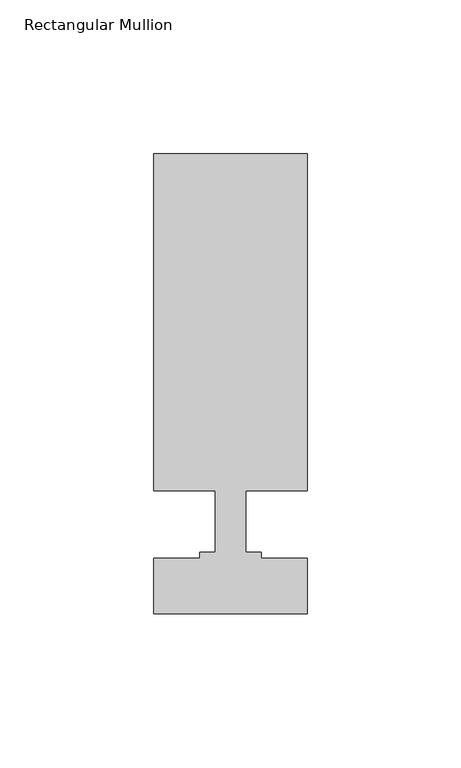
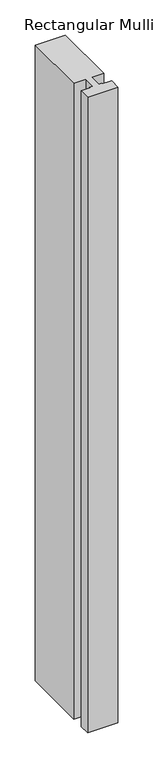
"""IFC4 building model written with IfcOpenShell, lengths in millimetres: member geometry, Rectangular Mullion : TR_CW_¸ALU_internal."""

from ifc_helpers import new_model, si_unit, frame, origin, place, context, project, spatial, polyline, outline, extrude, source, transform, mapped, element, save


def rectangular_mullion_52986066(model_context):
    return source(origin(), model_context, "Body", "SweptSolid", [
        extrude(outline(polyline([(25.0, 0.0), (-25.0, 0.0), (-25.0, 18.0204111), (-10.0, 18.0204111), (-10.0, 20.0), (-5.0, 20.0), (-5.0, 40.0), (-25.0, 40.0), (-25.0, 149.8096073), (25.0, 149.8096073), (25.0, 40.0), (5.0, 40.0), (5.0, 20.0), (10.0, 20.0), (10.0, 18.0204111), (25.0, 18.0204111), (25.0, 0.0)])), frame((0.0, 0.0, -1107.5), z_axis=(0.0, 0.0, 1.0), x_axis=(1.0, 0.0, 0.0)), (0.0, 0.0, 1.0), 1107.5),
    ])


if __name__ == "__main__":
    model = new_model("IFC4")
    model_context = context("Model", 3, world=origin())
    ifc_project = project(units=[si_unit("LENGTHUNIT", "METRE", prefix="MILLI")], contexts=[model_context])
    site = spatial("IfcSite", under=ifc_project)
    building = spatial("IfcBuilding", under=site)
    placement = place(None, origin())
    rectangular_mullion_shape = rectangular_mullion_52986066(model_context)
    element("IfcMember", 1, ObjectType="Rectangular Mullion : TR_CW_¸ALU_internal", at=placement, inside=building, context=model_context, shape_type="MappedRepresentation", body=[
        mapped(rectangular_mullion_shape, transform((0.0, 0.0, 0.0), x_axis=(1.0, 0.0, 0.0), y_axis=(0.0, 1.0, 0.0), z_axis=(0.0, 0.0, 1.0))),
    ])
    save(model, "model.ifc")
